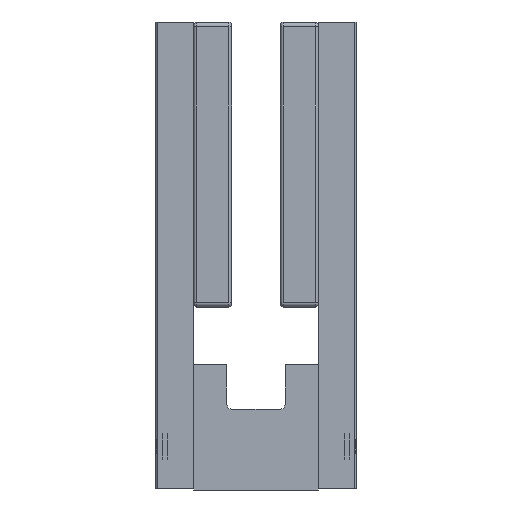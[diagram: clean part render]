
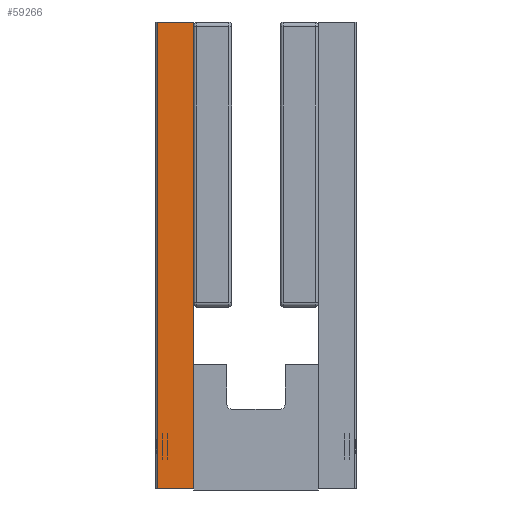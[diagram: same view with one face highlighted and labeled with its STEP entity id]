
A CAD part, left-side view. The second image highlights one B-rep face of the part: STEP entity #59266.
In plain terms, the highlighted planar face has unit normal (-1, 0, 0).
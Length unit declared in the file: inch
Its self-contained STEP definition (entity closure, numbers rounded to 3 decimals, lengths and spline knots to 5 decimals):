
#3304 = ORIENTED_EDGE ( 'NONE', *, *, #62650, .F. ) ;
#5784 = VERTEX_POINT ( 'NONE', #47073 ) ;
#7684 = LINE ( 'NONE', #56135, #79073 ) ;
#7913 = ORIENTED_EDGE ( 'NONE', *, *, #39946, .T. ) ;
#8786 = CARTESIAN_POINT ( 'NONE',  ( -7.6752, 0.07087, -0.96457 ) ) ;
#12533 = DIRECTION ( 'NONE',  ( 0., 0., -1. ) ) ;
#13439 = VECTOR ( 'NONE', #16102, 39.37008 ) ;
#13841 = AXIS2_PLACEMENT_3D ( 'NONE', #76657, #53465, #77458 ) ;
#16102 = DIRECTION ( 'NONE',  ( 0., 0., -1. ) ) ;
#16107 = ORIENTED_EDGE ( 'NONE', *, *, #27762, .T. ) ;
#22983 = CARTESIAN_POINT ( 'NONE',  ( -7.6752, -0.07874, 0.96457 ) ) ;
#23539 = CARTESIAN_POINT ( 'NONE',  ( -7.6752, 0.07087, 0.96457 ) ) ;
#25013 = CARTESIAN_POINT ( 'NONE',  ( -7.6752, -0.07874, 0.96457 ) ) ;
#27762 = EDGE_CURVE ( 'NONE', #31437, #61993, #80456, .T. ) ;
#28241 = PLANE ( 'NONE',  #13841 ) ;
#31437 = VERTEX_POINT ( 'NONE', #33432 ) ;
#32337 = LINE ( 'NONE', #25013, #40976 ) ;
#33151 = FACE_OUTER_BOUND ( 'NONE', #71030, .T. ) ;
#33432 = CARTESIAN_POINT ( 'NONE',  ( -7.6752, 0.07087, 0.96457 ) ) ;
#37017 = DIRECTION ( 'NONE',  ( 0., 1., 0. ) ) ;
#37356 = EDGE_CURVE ( 'NONE', #5784, #58182, #54722, .T. ) ;
#39946 = EDGE_CURVE ( 'NONE', #5784, #31437, #32337, .T. ) ;
#40976 = VECTOR ( 'NONE', #68957, 39.37008 ) ;
#47073 = CARTESIAN_POINT ( 'NONE',  ( -7.6752, -0.07874, 0.96457 ) ) ;
#49666 = CARTESIAN_POINT ( 'NONE',  ( -7.6752, -0.07874, -0.96457 ) ) ;
#53465 = DIRECTION ( 'NONE',  ( 1., 0., 0. ) ) ;
#54722 = LINE ( 'NONE', #22983, #13439 ) ;
#56135 = CARTESIAN_POINT ( 'NONE',  ( -7.6752, -0.07874, -0.96457 ) ) ;
#58182 = VERTEX_POINT ( 'NONE', #49666 ) ;
#59266 = ADVANCED_FACE ( 'NONE', ( #33151 ), #28241, .F. ) ;
#60199 = VECTOR ( 'NONE', #12533, 39.37008 ) ;
#61993 = VERTEX_POINT ( 'NONE', #8786 ) ;
#62650 = EDGE_CURVE ( 'NONE', #58182, #61993, #7684, .T. ) ;
#64101 = ORIENTED_EDGE ( 'NONE', *, *, #37356, .F. ) ;
#68957 = DIRECTION ( 'NONE',  ( 0., 1., 0. ) ) ;
#71030 = EDGE_LOOP ( 'NONE', ( #7913, #16107, #3304, #64101 ) ) ;
#76657 = CARTESIAN_POINT ( 'NONE',  ( -7.6752, -0.07874, 0.96457 ) ) ;
#77458 = DIRECTION ( 'NONE',  ( 0., 1., 0. ) ) ;
#79073 = VECTOR ( 'NONE', #37017, 39.37008 ) ;
#80456 = LINE ( 'NONE', #23539, #60199 ) ;
